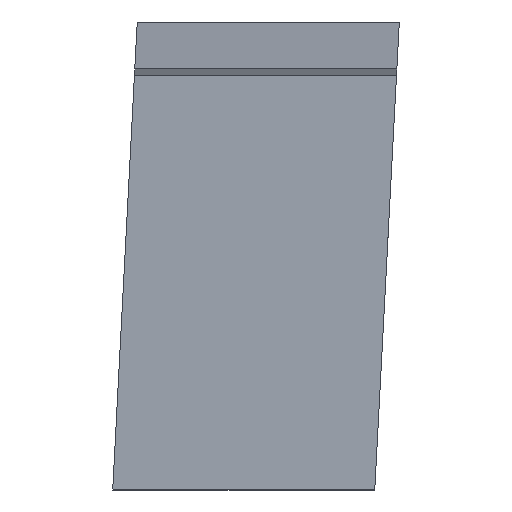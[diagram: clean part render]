
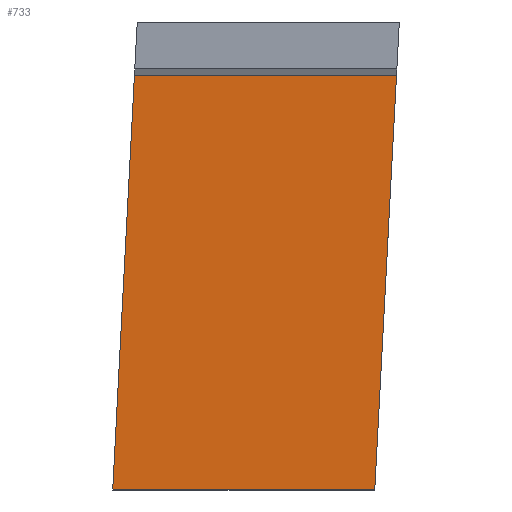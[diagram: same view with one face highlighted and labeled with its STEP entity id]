
A CAD part, front view. The second image highlights one B-rep face of the part: STEP entity #733.
In plain terms, the highlighted planar face has unit normal (0, -0.999, -0.035).
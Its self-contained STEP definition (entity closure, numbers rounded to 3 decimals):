
#122=DIRECTION('',(-0.052,0.035,-0.998));
#123=VECTOR('',#122,11.092);
#124=CARTESIAN_POINT('',(-6.82,-20.387,9.47));
#125=LINE('',#124,#123);
#174=DIRECTION('',(1.,0.,0.));
#175=VECTOR('',#174,7.);
#176=CARTESIAN_POINT('',(-13.82,-20.387,9.47));
#177=LINE('',#176,#175);
#178=DIRECTION('',(1.,0.,0.));
#179=VECTOR('',#178,7.);
#180=CARTESIAN_POINT('',(-14.4,-20.,-1.6));
#181=LINE('',#180,#179);
#182=DIRECTION('',(-0.052,0.035,-0.998));
#183=VECTOR('',#182,11.092);
#184=CARTESIAN_POINT('',(-13.82,-20.387,9.47));
#185=LINE('',#184,#183);
#402=CARTESIAN_POINT('',(-13.82,-20.387,9.47));
#403=CARTESIAN_POINT('',(-6.82,-20.387,9.47));
#404=VERTEX_POINT('',#402);
#405=VERTEX_POINT('',#403);
#406=CARTESIAN_POINT('',(-14.4,-20.,-1.6));
#407=VERTEX_POINT('',#406);
#408=CARTESIAN_POINT('',(-7.4,-20.,-1.6));
#409=VERTEX_POINT('',#408);
#721=CARTESIAN_POINT('',(0.,-20.387,9.47));
#722=DIRECTION('',(0.,0.999,0.035));
#723=DIRECTION('',(0.,0.035,-0.999));
#724=AXIS2_PLACEMENT_3D('',#721,#722,#723);
#725=PLANE('',#724);
#726=ORIENTED_EDGE('',*,*,#714,.T.);
#727=ORIENTED_EDGE('',*,*,#622,.T.);
#728=ORIENTED_EDGE('',*,*,#533,.F.);
#730=ORIENTED_EDGE('',*,*,#729,.F.);
#731=EDGE_LOOP('',(#726,#727,#728,#730));
#732=FACE_OUTER_BOUND('',#731,.F.);
#733=ADVANCED_FACE('',(#732),#725,.F.);
#533=EDGE_CURVE('',#407,#409,#181,.T.);
#622=EDGE_CURVE('',#405,#409,#125,.T.);
#714=EDGE_CURVE('',#404,#405,#177,.T.);
#729=EDGE_CURVE('',#404,#407,#185,.T.);
